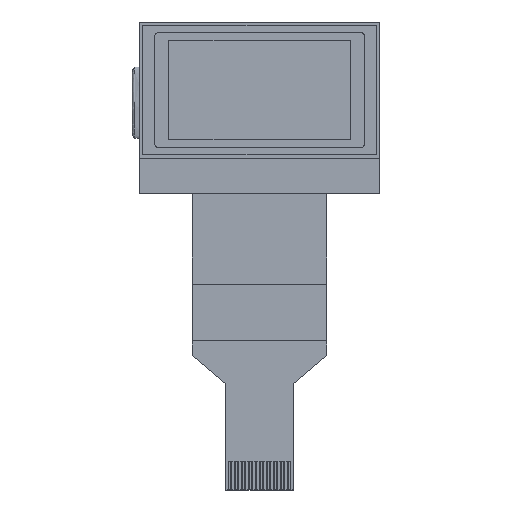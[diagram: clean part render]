
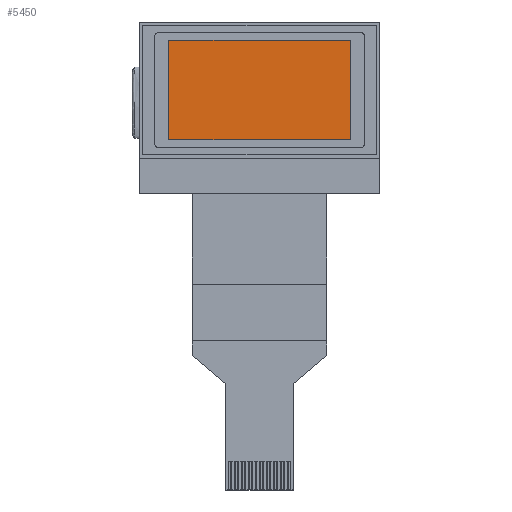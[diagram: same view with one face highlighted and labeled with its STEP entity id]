
A CAD part, top view. The second image highlights one B-rep face of the part: STEP entity #5450.
In plain terms, the highlighted planar face has unit normal (0, 0, 1).
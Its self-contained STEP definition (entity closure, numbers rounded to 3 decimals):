
#259 = VERTEX_POINT ( 'NONE', #4901 ) ;
#304 = DIRECTION ( 'NONE',  ( 0., 0., 1. ) ) ;
#640 = CARTESIAN_POINT ( 'NONE',  ( 0., -7.03, 0.875 ) ) ;
#855 = ORIENTED_EDGE ( 'NONE', *, *, #2790, .F. ) ;
#1164 = DIRECTION ( 'NONE',  ( 0., -1., 0. ) ) ;
#2312 = EDGE_LOOP ( 'NONE', ( #855, #3828, #2910, #5476 ) ) ;
#2790 = EDGE_CURVE ( 'NONE', #3067, #7120, #5419, .T. ) ;
#2910 = ORIENTED_EDGE ( 'NONE', *, *, #3373, .F. ) ;
#2996 = VECTOR ( 'NONE', #3255, 1000. ) ;
#3067 = VERTEX_POINT ( 'NONE', #4376 ) ;
#3175 = PLANE ( 'NONE',  #3396 ) ;
#3201 = EDGE_CURVE ( 'NONE', #7120, #5205, #6658, .T. ) ;
#3255 = DIRECTION ( 'NONE',  ( 1., 0., 0. ) ) ;
#3360 = VECTOR ( 'NONE', #1164, 1000. ) ;
#3373 = EDGE_CURVE ( 'NONE', #5205, #259, #5114, .T. ) ;
#3396 = AXIS2_PLACEMENT_3D ( 'NONE', #3845, #304, #4864 ) ;
#3772 = FACE_OUTER_BOUND ( 'NONE', #2312, .T. ) ;
#3818 = CARTESIAN_POINT ( 'NONE',  ( 0., 7.03, 0.875 ) ) ;
#3828 = ORIENTED_EDGE ( 'NONE', *, *, #6904, .F. ) ;
#3845 = CARTESIAN_POINT ( 'NONE',  ( 0., 0., 0.875 ) ) ;
#4376 = CARTESIAN_POINT ( 'NONE',  ( -12.79, -7.03, 0.875 ) ) ;
#4731 = VECTOR ( 'NONE', #5678, 1000. ) ;
#4864 = DIRECTION ( 'NONE',  ( 1., 0., 0. ) ) ;
#4901 = CARTESIAN_POINT ( 'NONE',  ( 12.79, -7.03, 0.875 ) ) ;
#5114 = LINE ( 'NONE', #6322, #3360 ) ;
#5205 = VERTEX_POINT ( 'NONE', #6059 ) ;
#5388 = VECTOR ( 'NONE', #5453, 1000. ) ;
#5419 = LINE ( 'NONE', #5522, #5388 ) ;
#5450 = ADVANCED_FACE ( 'NONE', ( #3772 ), #3175, .T. ) ;
#5453 = DIRECTION ( 'NONE',  ( 0., 1., 0. ) ) ;
#5476 = ORIENTED_EDGE ( 'NONE', *, *, #3201, .F. ) ;
#5522 = CARTESIAN_POINT ( 'NONE',  ( -12.79, 0., 0.875 ) ) ;
#5678 = DIRECTION ( 'NONE',  ( -1., 0., 0. ) ) ;
#5751 = LINE ( 'NONE', #640, #4731 ) ;
#6059 = CARTESIAN_POINT ( 'NONE',  ( 12.79, 7.03, 0.875 ) ) ;
#6322 = CARTESIAN_POINT ( 'NONE',  ( 12.79, 0., 0.875 ) ) ;
#6570 = CARTESIAN_POINT ( 'NONE',  ( -12.79, 7.03, 0.875 ) ) ;
#6658 = LINE ( 'NONE', #3818, #2996 ) ;
#6904 = EDGE_CURVE ( 'NONE', #259, #3067, #5751, .T. ) ;
#7120 = VERTEX_POINT ( 'NONE', #6570 ) ;
